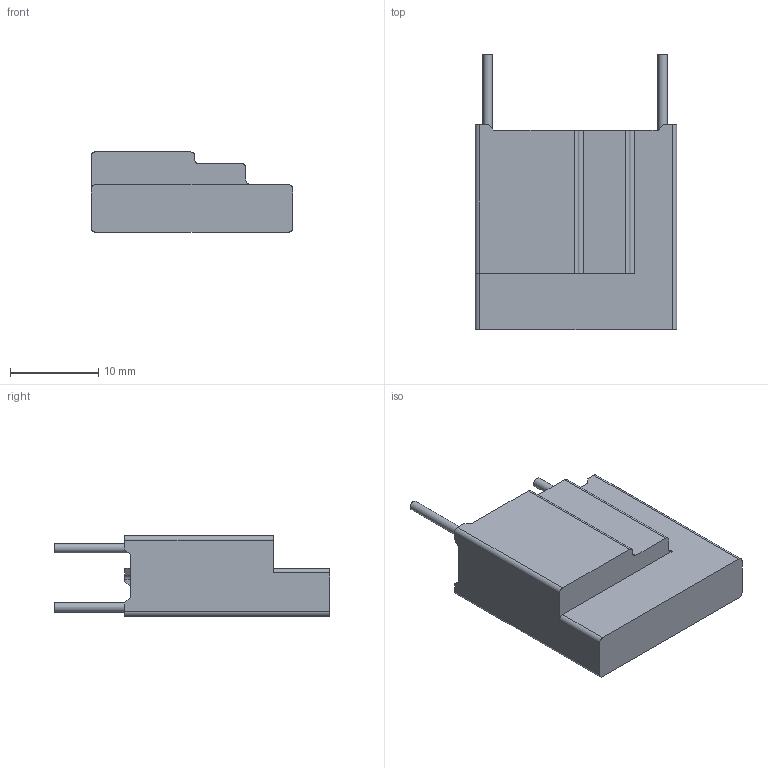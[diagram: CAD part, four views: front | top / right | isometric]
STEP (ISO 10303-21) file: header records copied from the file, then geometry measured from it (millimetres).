
FILE_DESCRIPTION(/* description */ ('Unknown'),/* implementation_level */ '2;1');
FILE_NAME(/* name */ 'TFMOV20S330-2-001',/* time_stamp */ '2024-06-24T17:27:45+08:00',/* author */ ('Unknown'),/* organization */ ('Unknown'),/* preprocessor_version */ 'ST-DEVELOPER v16.7',/* originating_system */ 'Solid Edge',/* authorisation */ 'Unknown');
FILE_SCHEMA (('AUTOMOTIVE_DESIGN {1 0 10303 214 3 1 1}'));
Length unit declared in the file: millimetre
Products named in the file (1): TFMOV20S330-2-001
Bounding box: 22.8 x 31.2 x 9.1 mm (x, y, z)
Volume: 1315.7 mm3; surface area: 3276 mm2
Topology: 1 solids, 2 shells, 99 faces, 277 edges, 184 vertices
Faces by surface type: plane 77, cylinder 22
Full cylindrical faces by diameter (mm): 1.05 x2
Entity records: 3178 total; most frequent: CARTESIAN_POINT 559, ORIENTED_EDGE 550, DIRECTION 520, EDGE_CURVE 275, LINE 230, VECTOR 230, VERTEX_POINT 184, AXIS2_PLACEMENT_3D 145
